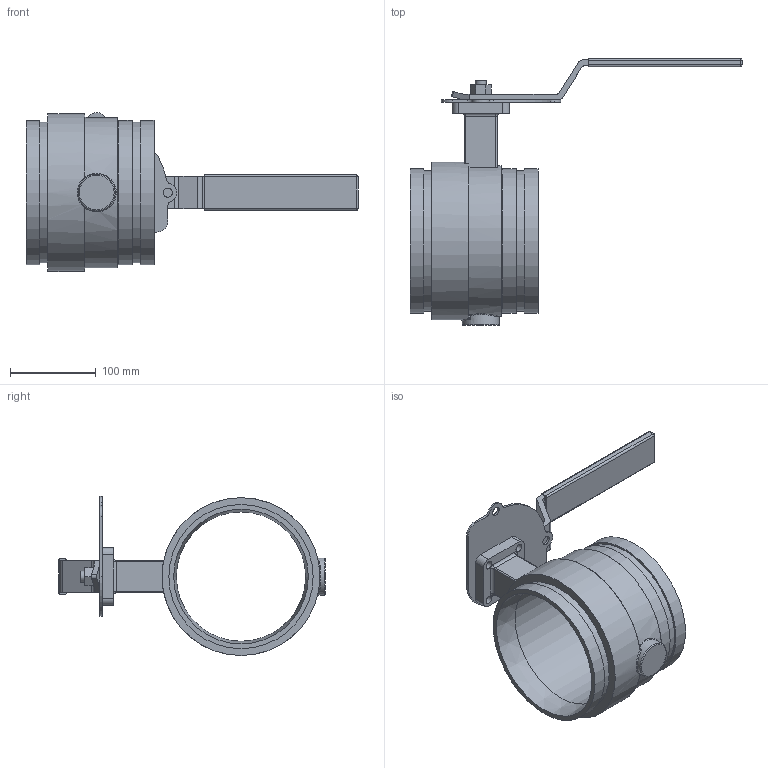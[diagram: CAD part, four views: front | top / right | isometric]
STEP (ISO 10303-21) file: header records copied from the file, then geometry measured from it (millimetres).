
FILE_DESCRIPTION(/* description */ ('Vic Series 461 Vic-300 SS w/ Lever Handle Butterfly Valve','CAx-IF Rec.Pracs.---Representation and Presentation of Product Manufacturing Information (PMI)---4.0---2014-10-13'),/* implementation_level */ '2;1');
FILE_NAME(/* name */ 'C:\Users\kkamble\AppData\Roaming\Autodesk\ApplicationPlugins\Back Up\Victaulic_SS-OGS_Valve Butterfly Vic-300 Masterseal Lever Handle_Series 461 (OGS)\Victaulic_SS-OGS_Valve Butterfly Vic-300 Masterseal Lever Handle_6 (150).stp',/* time_stamp */ '2020-09-02T14:52:37+05:00',/* author */ ('jbrannon'),/* organization */ ('Victaulic'),/* preprocessor_version */ 'ST-DEVELOPER v17.2',/* originating_system */ 'Autodesk Inventor 2019',/* authorisation */ '');
FILE_SCHEMA (('AP242_MANAGED_MODEL_BASED_3D_ENGINEERING_MIM_LF { 1 0 10303 442 1 1 4 }'));
Length unit declared in the file: inch
Products named in the file (4): 461-06.0; 461-06.0_1; 461-06.0_2; 461-06.0_3
Assembly tree (3 placements, depth 2):
  461-06.0
    461-06.0_1
    461-06.0_2
    461-06.0_3
Bounding box: 387.34 x 311.41 x 185.54 mm (x, y, z)
Volume: 1156680.2 mm3; surface area: 258550.5 mm2
Topology: 3 solids, 3 shells, 154 faces, 385 edges, 245 vertices
Faces by surface type: cylinder 66, plane 53, bspline 14, torus 13, sphere 6, cone 2
Full cylindrical faces by diameter (mm): 9.652 x8, 10.668 x2, 12.7 x2, 23.876 x1, 43.18 x1, 54.102 x1, 150.876 x1, 163.957 x2, 168.275 x3, 175.26 x1, 184.15 x1
Entity records: 5673 total; most frequent: CARTESIAN_POINT 1559, DIRECTION 827, ORIENTED_EDGE 766, EDGE_CURVE 383, AXIS2_PLACEMENT_3D 328, VERTEX_POINT 245, EDGE_LOOP 190, CIRCLE 181
